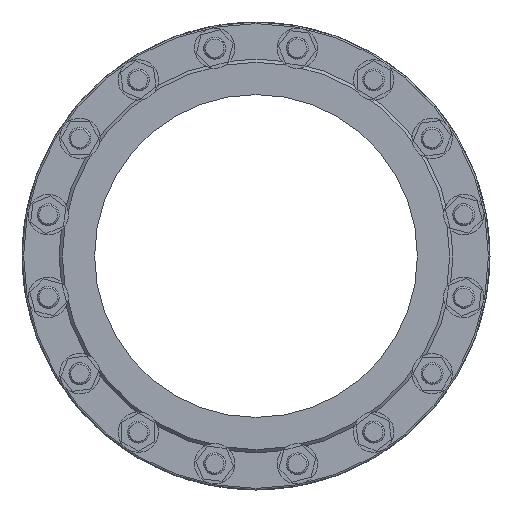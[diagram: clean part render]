
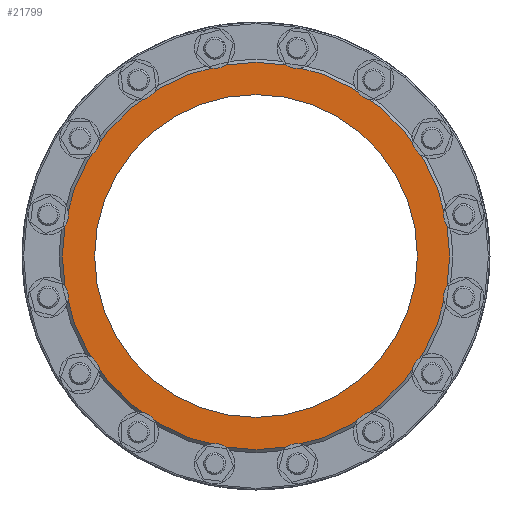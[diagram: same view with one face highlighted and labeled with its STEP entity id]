
A CAD part, left-side view. The second image highlights one B-rep face of the part: STEP entity #21799.
In plain terms, the highlighted planar face has unit normal (-1, 0, 0).
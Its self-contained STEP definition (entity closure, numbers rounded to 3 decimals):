
#823 = DIRECTION ( 'NONE',  ( -1., 0., 0. ) ) ;
#1644 = CARTESIAN_POINT ( 'NONE',  ( -15., 0., -200. ) ) ;
#4169 = DIRECTION ( 'NONE',  ( 1., 0., 0. ) ) ;
#4331 = AXIS2_PLACEMENT_3D ( 'NONE', #8321, #4169, #22379 ) ;
#4375 = EDGE_CURVE ( 'NONE', #13831, #13831, #20152, .T. ) ;
#4529 = EDGE_CURVE ( 'NONE', #5540, #5540, #20569, .T. ) ;
#5540 = VERTEX_POINT ( 'NONE', #15969 ) ;
#6255 = DIRECTION ( 'NONE',  ( 0., 1., 0. ) ) ;
#6425 = EDGE_LOOP ( 'NONE', ( #20214 ) ) ;
#7391 = ORIENTED_EDGE ( 'NONE', *, *, #4529, .T. ) ;
#8321 = CARTESIAN_POINT ( 'NONE',  ( -15., 0., 0. ) ) ;
#10148 = FACE_BOUND ( 'NONE', #6425, .T. ) ;
#10277 = CARTESIAN_POINT ( 'NONE',  ( -15., 0., 200. ) ) ;
#10315 = AXIS2_PLACEMENT_3D ( 'NONE', #22778, #823, #12737 ) ;
#10827 = AXIS2_PLACEMENT_3D ( 'NONE', #10277, #22723, #6255 ) ;
#12737 = DIRECTION ( 'NONE',  ( 0., -1., 0. ) ) ;
#13831 = VERTEX_POINT ( 'NONE', #1644 ) ;
#14691 = PLANE ( 'NONE',  #10827 ) ;
#15417 = EDGE_LOOP ( 'NONE', ( #7391 ) ) ;
#15969 = CARTESIAN_POINT ( 'NONE',  ( -15., -240., 0. ) ) ;
#20152 = CIRCLE ( 'NONE', #4331, 200. ) ;
#20214 = ORIENTED_EDGE ( 'NONE', *, *, #4375, .T. ) ;
#20569 = CIRCLE ( 'NONE', #10315, 240. ) ;
#21799 = ADVANCED_FACE ( 'NONE', ( #10148, #22850 ), #14691, .F. ) ;
#22379 = DIRECTION ( 'NONE',  ( 0., 0., -1. ) ) ;
#22723 = DIRECTION ( 'NONE',  ( 1., 0., 0. ) ) ;
#22778 = CARTESIAN_POINT ( 'NONE',  ( -15., 0., 0. ) ) ;
#22850 = FACE_OUTER_BOUND ( 'NONE', #15417, .T. ) ;
